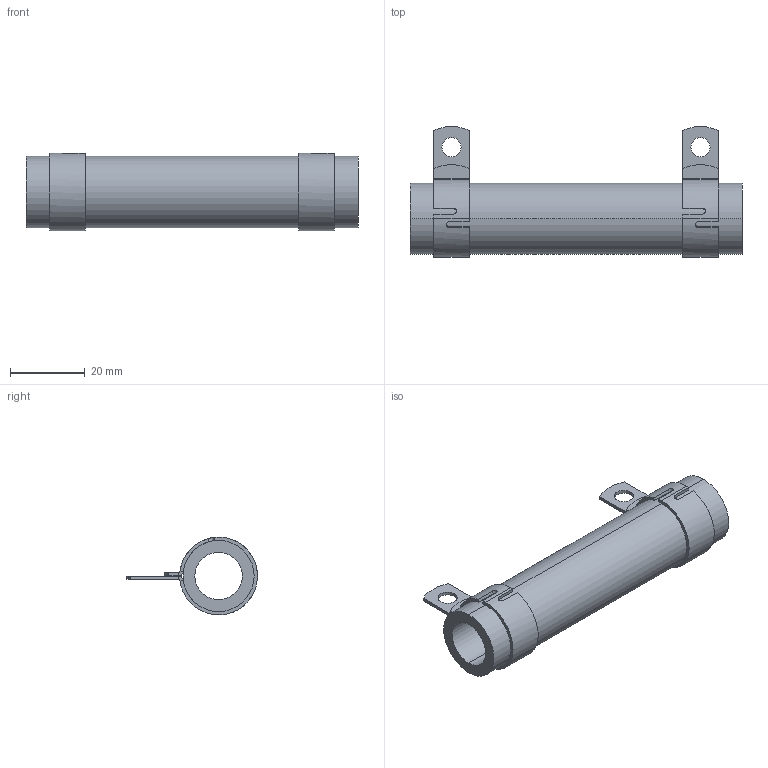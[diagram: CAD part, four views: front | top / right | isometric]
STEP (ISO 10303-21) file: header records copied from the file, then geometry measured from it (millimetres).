
FILE_DESCRIPTION (( 'STEP AP203' ), '1' );
FILE_NAME ('RBEF0100xxxxxKFB00.STEP', '2014-04-04T18:33:52', ( '' ), ( '' ), 'SwSTEP 2.0', 'SolidWorks 2012', '' );
FILE_SCHEMA (( 'CONFIG_CONTROL_DESIGN' ));
Length unit declared in the file: millimetre
Products named in the file (3): RBEF0100xxxxxKFB00; DAL15-160-XXX_DAL15-160-912-CLOSED; DAL013-04_DAL013-114
Assembly tree (3 placements, depth 2):
  RBEF0100xxxxxKFB00
    DAL013-04_DAL013-114
    DAL15-160-XXX_DAL15-160-912-CLOSED  x2
Bounding box: 88.9 x 35.06 x 20.83 mm (x, y, z)
Volume: 15355.4 mm3; surface area: 12442.9 mm2
Topology: 3 solids, 3 shells, 80 faces, 190 edges, 116 vertices
Faces by surface type: plane 42, cylinder 34, bspline 4
Entity records: 1706 total; most frequent: CARTESIAN_POINT 366, DIRECTION 229, ORIENTED_EDGE 202, EDGE_CURVE 101, AXIS2_PLACEMENT_3D 89, VERTEX_POINT 62, VECTOR 51, LINE 51
